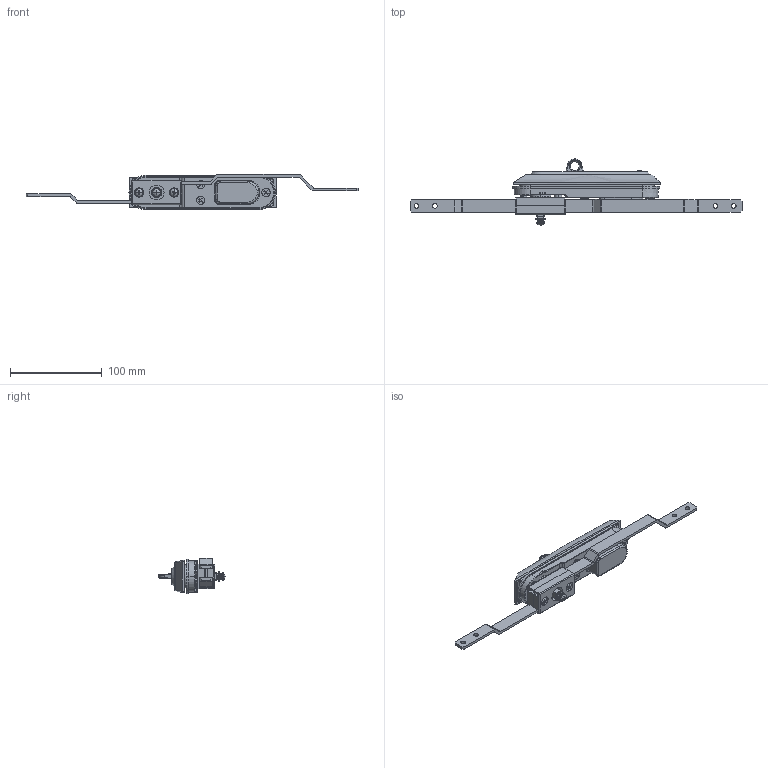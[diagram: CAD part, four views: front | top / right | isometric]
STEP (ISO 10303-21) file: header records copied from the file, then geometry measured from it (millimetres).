
FILE_DESCRIPTION((''),'2;1');
FILE_NAME('MS834Z2E000001_MS80001','2023-03-16T16:12:54',('018800'),(''),'CREO PARAMETRIC BY PTC INC, 2020342','CREO PARAMETRIC BY PTC INC, 2020342','');
FILE_SCHEMA(('CONFIG_CONTROL_DESIGN'));
Products named in the file (1): MS834Z2E000001_MS80001
Bounding box: 361 x 71.89 x 38.5 mm (x, y, z)
Surface area: 111201.1 mm2 (no closed solid volume)
Topology: 0 solids, 51 shells, 2233 faces, 5912 edges, 3748 vertices
Faces by surface type: cylinder 839, plane 723, bspline 231, cone 230, torus 171, sphere 18, extrusion 13, revolution 8
Entity records: 97368 total; most frequent: CARTESIAN_POINT 44222, ORIENTED_EDGE 11641, DIRECTION 10296, EDGE_CURVE 5878, AXIS2_PLACEMENT_3D 3861, VERTEX_POINT 3748, VECTOR 2566, LINE 2553
